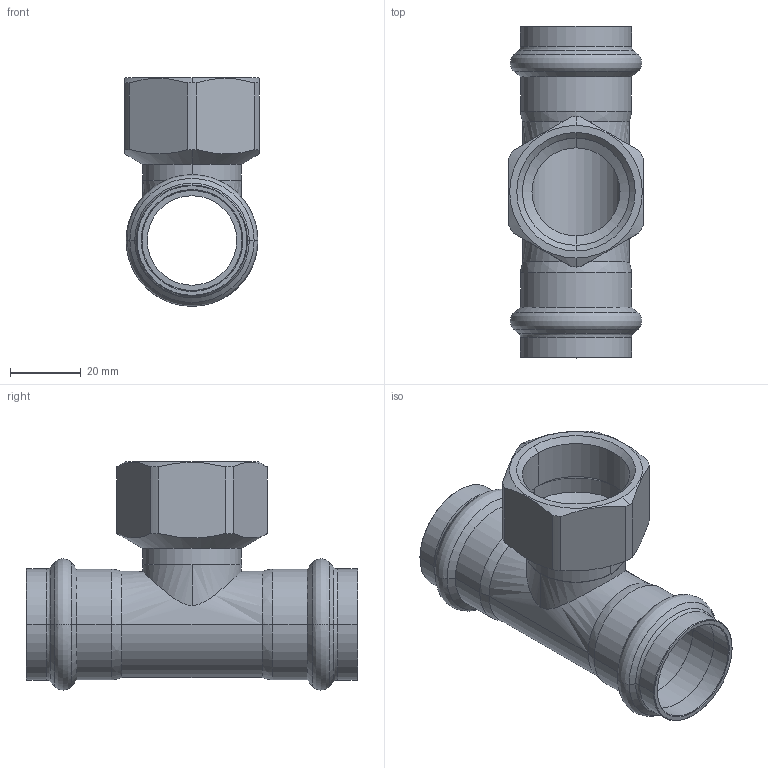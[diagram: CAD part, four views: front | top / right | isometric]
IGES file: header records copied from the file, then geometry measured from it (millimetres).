
Start section: Elysium IGES Interface
Global section: file name: C:\Users\Wallenburg\Desktop\3d modellen sudo\S-Pr VP\SP6130GV\6130GVW28128.igs; native system: CoCreate Modeling 17.00A  17-Jun-2010; preprocessor: CoCreate IGES_3D V2.2; author: Unknown; organization: Unknown; date: 20130121.145318; units: millimetre
Bounding box: 38 x 93.81 x 64.59 mm (x, y, z)
Volume: 27864 mm3; surface area: 25661.9 mm2
Topology: 1 solids, 1 shells, 116 faces, 260 edges, 152 vertices
Faces by surface type: bspline 116
